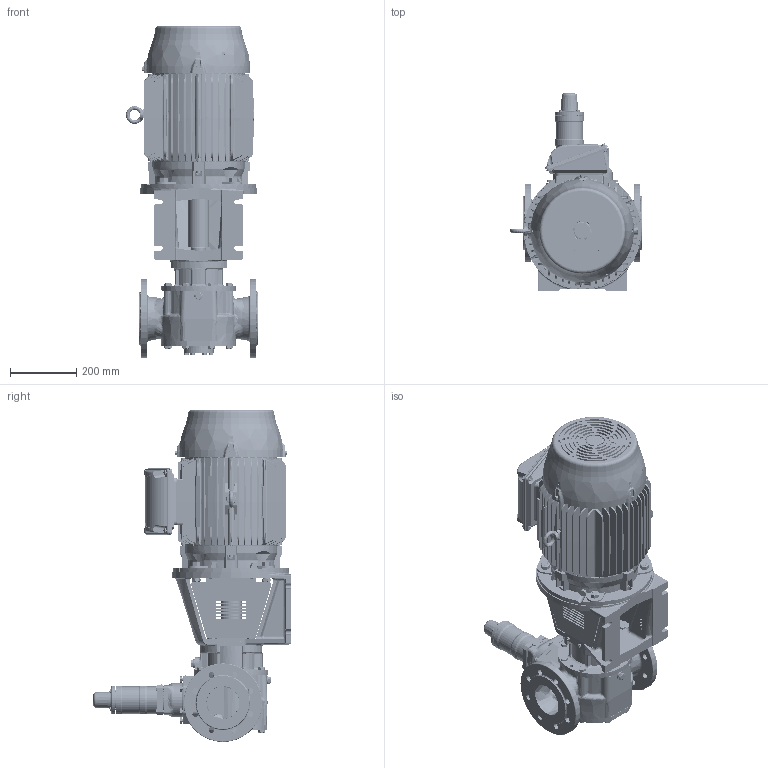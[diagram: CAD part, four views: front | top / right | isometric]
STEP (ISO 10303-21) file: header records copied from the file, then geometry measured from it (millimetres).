
FILE_DESCRIPTION(/* description */ (''),/* implementation_level */ '2;1');
FILE_NAME(/* name */ 'C:\V\JPP\Designs\GEAR PUMPS\PRODUCT ENGINEERING\EUROPE\TG BLOC\TG BLOC_86-100_R5_O_RV1-_160M-STEP.stp',/* time_stamp */ '2021-03-19T15:05:26+01:00',/* author */ ('A77THR'),/* organization */ (''),/* preprocessor_version */ 'ST-DEVELOPER v18.1',/* originating_system */ 'Autodesk Inventor 2020',/* authorisation */ '');
FILE_SCHEMA (('AUTOMOTIVE_DESIGN { 1 0 10303 214 3 1 1 }'));
Length unit declared in the file: millimetre
Products named in the file (1): TG BLOC_86-100_R5_O_RV1-_160M
Bounding box: 399.99 x 597 x 1004 mm (x, y, z)
Volume: 53167867.2 mm3; surface area: 2681254 mm2
Topology: 1 solids, 1 shells, 5093 faces, 13343 edges, 8424 vertices
Faces by surface type: plane 2047, cylinder 1104, bspline 1058, cone 680, torus 154, sphere 50
Full cylindrical faces by diameter (mm): 4 x1, 4.5 x8, 4.917 x8, 5 x4, 5.459 x4, 6 x4, 6.647 x1, 7 x8, 7.323 x10, 7.5 x3, 8 x23, 8.7 x4, 9 x12, 9.188 x8, 9.4 x1, 10 x16, 10.106 x7, 10.2 x2, 11 x8, 11.053 x4, 11.4 x10, 11.445 x2, 11.6 x7, 12 x4, 12.5 x3, 13 x5, 13.157 x2, 13.2 x2, 14 x8, 15.011 x2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
Entity records: 214077 total; most frequent: CARTESIAN_POINT 92087, ORIENTED_EDGE 26460, DIRECTION 22292, EDGE_CURVE 13230, AXIS2_PLACEMENT_3D 8668, VERTEX_POINT 8424, EDGE_LOOP 5552, FACE_OUTER_BOUND 5093
